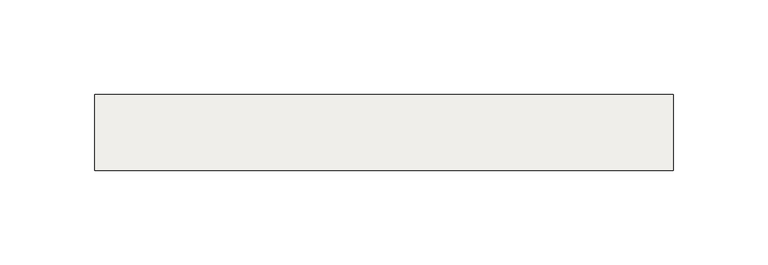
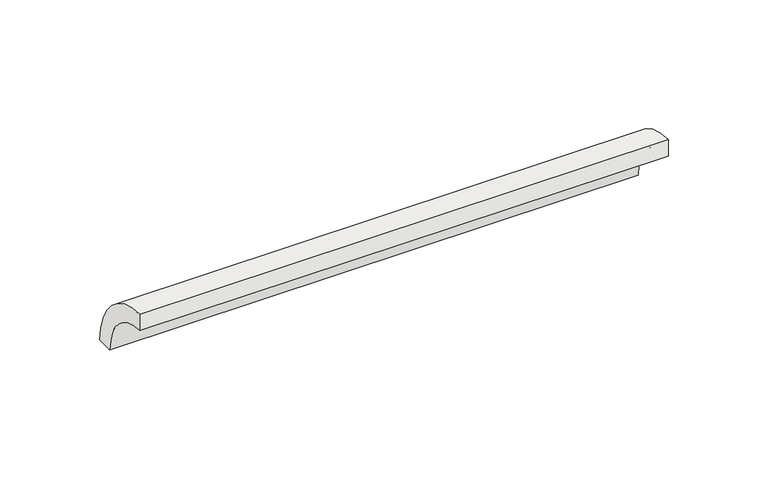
"""IFC4 building model written with IfcOpenShell, lengths in millimetres: slab geometry, ROSA GRES_138 : Pieza 138_Aqua_Marino_Anti-Slip."""

from ifc_helpers import new_model, si_unit, point, frame, frame_2d, origin, origin_2d, place, context, project, spatial, polyline, circle_curve, trimmed, segment, composite_curve, outline, extrude, source, transform, mapped, element, save


def slab_35f00dca(model_context):
    return source(origin(), model_context, "Body", "SweptSolid", [
        extrude(outline(composite_curve([segment(trimmed(circle_curve(origin_2d(), 40.0), [point((0.0, 40.0))], [point((40.0, 0.0))], False, "CARTESIAN"), True, "CONTINUOUS"), segment(polyline([(40.0, 0.0), (30.0265886, 0.0)]), True, "CONTINUOUS"), segment(trimmed(circle_curve(frame_2d((0.0044453, 0.0044453)), 30.0221435), [point((30.0265886, 0.0))], [point((0.0, 30.0265886))], True, "CARTESIAN"), True, "CONTINUOUS"), segment(polyline([(0.0, 30.0265886), (0.0, 40.0)]), True, "CONTINUOUS")], self_intersect=False)), frame((0.0, 0.0, 0.0), z_axis=(1.0, 0.0, 0.0), x_axis=(0.0, 1.0, 0.0)), (0.0, 0.0, 1.0), 305.0),
    ])


if __name__ == "__main__":
    model = new_model("IFC4")
    model_context = context("Model", 3, world=origin())
    ifc_project = project(units=[si_unit("LENGTHUNIT", "METRE", prefix="MILLI")], contexts=[model_context])
    site = spatial("IfcSite", under=ifc_project)
    building = spatial("IfcBuilding", under=site)
    placement = place(None, origin())
    slab_shape = slab_35f00dca(model_context)
    element("IfcSlab", 1, ObjectType="ROSA GRES_138 : Pieza 138_Aqua_Marino_Anti-Slip", at=placement, inside=building, context=model_context, shape_type="MappedRepresentation", body=[
        mapped(slab_shape, transform((0.0, 0.0, 0.0), x_axis=(1.0, 0.0, 0.0), y_axis=(0.0, 1.0, 0.0), z_axis=(0.0, 0.0, 1.0))),
    ])
    save(model, "model.ifc")
